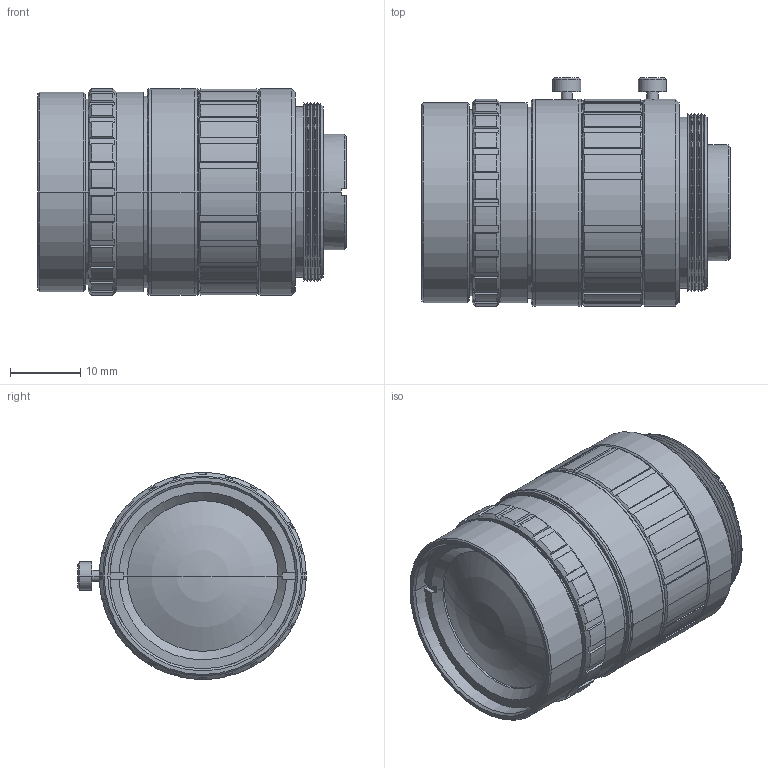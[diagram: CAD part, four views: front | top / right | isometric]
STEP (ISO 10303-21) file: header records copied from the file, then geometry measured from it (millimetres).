
FILE_DESCRIPTION(('CoCreate Modeling STEP Export'),'2;1');
FILE_NAME('DF6HA-1B_3D_Modeling.stp','2016-05-11T18:21:17',(''),(''),'CoCreate Modeling STEP processor for AP214 (Solid Model)','CoCreate Modeling 17.0 01-Apr-2010 (C) Parametric Technology GmbH','');
FILE_SCHEMA(('AUTOMOTIVE_DESIGN { 1 0 10303 214 1 1 1 1 }'));
Length unit declared in the file: millimetre
Products named in the file (2): DF06HA-1B
Assembly tree (1 placements, depth 2):
  DF06HA-1B
    DF06HA-1B
Bounding box: 44 x 32.55 x 29.5 mm (x, y, z)
Volume: 25276.7 mm3; surface area: 8017.5 mm2
Topology: 1 solids, 1 shells, 341 faces, 903 edges, 577 vertices
Faces by surface type: cylinder 138, plane 131, cone 68, sphere 4
Entity records: 12322 total; most frequent: CARTESIAN_POINT 4316, ORIENTED_EDGE 1798, DIRECTION 1290, EDGE_CURVE 899, VERTEX_POINT 577, AXIS2_PLACEMENT_3D 481, EDGE_LOOP 358, FACE_OUTER_BOUND 341
